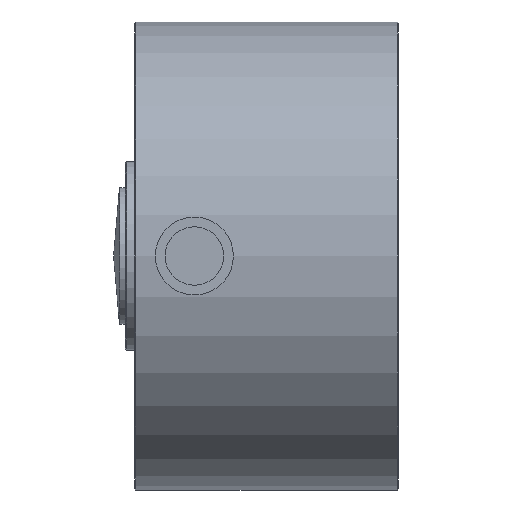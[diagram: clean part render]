
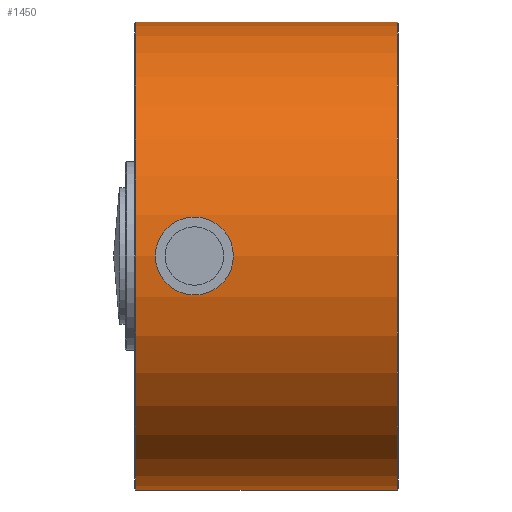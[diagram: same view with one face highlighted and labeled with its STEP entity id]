
A CAD part, left-side view. The second image highlights one B-rep face of the part: STEP entity #1450.
In plain terms, the highlighted cylindrical face has radius 76.2 mm (diameter 152.4 mm), a partial arc.
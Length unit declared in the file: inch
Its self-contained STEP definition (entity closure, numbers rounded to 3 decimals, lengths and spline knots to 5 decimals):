
#73 = CARTESIAN_POINT ( 'NONE',  ( 0., 3.38, 3. ) ) ;
#74 = DIRECTION ( 'NONE',  ( 0., -1., 0. ) ) ;
#108 = CARTESIAN_POINT ( 'NONE',  ( 0., 3.38, -3. ) ) ;
#123 = DIRECTION ( 'NONE',  ( 0., -1., 0. ) ) ;
#212 = CARTESIAN_POINT ( 'NONE',  ( 0., 3.365, 0. ) ) ;
#241 = DIRECTION ( 'NONE',  ( 0., -1., 0. ) ) ;
#242 = DIRECTION ( 'NONE',  ( 0., 0., 1. ) ) ;
#246 = DIRECTION ( 'NONE',  ( 0., -1., 0. ) ) ;
#264 = CARTESIAN_POINT ( 'NONE',  ( 0., 3.38, 0. ) ) ;
#286 = DIRECTION ( 'NONE',  ( 0., 0., -1. ) ) ;
#369 = CIRCLE ( 'NONE', #500, 3. ) ;
#380 = FACE_OUTER_BOUND ( 'NONE', #688, .T. ) ;
#381 = CYLINDRICAL_SURFACE ( 'NONE', #507, 3. ) ;
#500 = AXIS2_PLACEMENT_3D ( 'NONE', #212, #241, #242 ) ;
#507 = AXIS2_PLACEMENT_3D ( 'NONE', #264, #246, #286 ) ;
#589 = EDGE_CURVE ( 'NONE', #1051, #1046, #901, .T. ) ;
#602 = AXIS2_PLACEMENT_3D ( 'NONE', #1141, #1142, #1144 ) ;
#645 = ORIENTED_EDGE ( 'NONE', *, *, #589, .T. ) ;
#668 = ORIENTED_EDGE ( 'NONE', *, *, #1303, .T. ) ;
#670 = ORIENTED_EDGE ( 'NONE', *, *, #1271, .T. ) ;
#678 = ORIENTED_EDGE ( 'NONE', *, *, #1253, .F. ) ;
#688 = EDGE_LOOP ( 'NONE', ( #678, #668, #670, #645 ) ) ;
#901 = CIRCLE ( 'NONE', #602, 3. ) ;
#951 = LINE ( 'NONE', #73, #963 ) ;
#963 = VECTOR ( 'NONE', #74, 39.37008 ) ;
#980 = LINE ( 'NONE', #108, #983 ) ;
#983 = VECTOR ( 'NONE', #123, 39.37008 ) ;
#1046 = VERTEX_POINT ( 'NONE', #1183 ) ;
#1051 = VERTEX_POINT ( 'NONE', #1169 ) ;
#1059 = VERTEX_POINT ( 'NONE', #1187 ) ;
#1079 = VERTEX_POINT ( 'NONE', #1175 ) ;
#1141 = CARTESIAN_POINT ( 'NONE',  ( 0., 0.015, 0. ) ) ;
#1142 = DIRECTION ( 'NONE',  ( 0., 1., 0. ) ) ;
#1144 = DIRECTION ( 'NONE',  ( 0., 0., 1. ) ) ;
#1169 = CARTESIAN_POINT ( 'NONE',  ( 0., 0.015, -3. ) ) ;
#1175 = CARTESIAN_POINT ( 'NONE',  ( 0., 3.365, 3. ) ) ;
#1183 = CARTESIAN_POINT ( 'NONE',  ( 0., 0.015, 3. ) ) ;
#1187 = CARTESIAN_POINT ( 'NONE',  ( 0., 3.365, -3. ) ) ;
#1253 = EDGE_CURVE ( 'NONE', #1079, #1046, #951, .T. ) ;
#1271 = EDGE_CURVE ( 'NONE', #1059, #1051, #980, .T. ) ;
#1303 = EDGE_CURVE ( 'NONE', #1079, #1059, #369, .T. ) ;
#1450 = ADVANCED_FACE ( 'NONE', ( #380 ), #381, .T. ) ;
